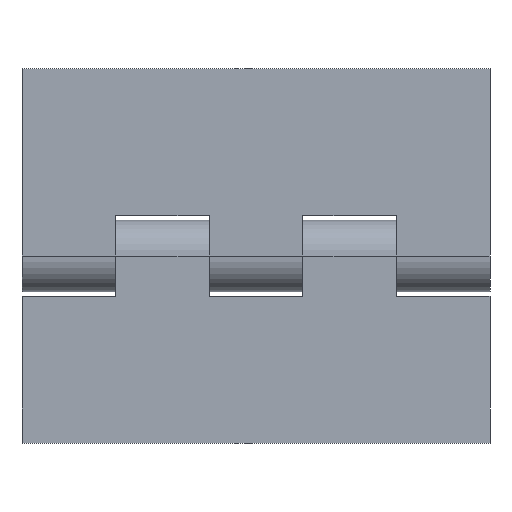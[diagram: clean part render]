
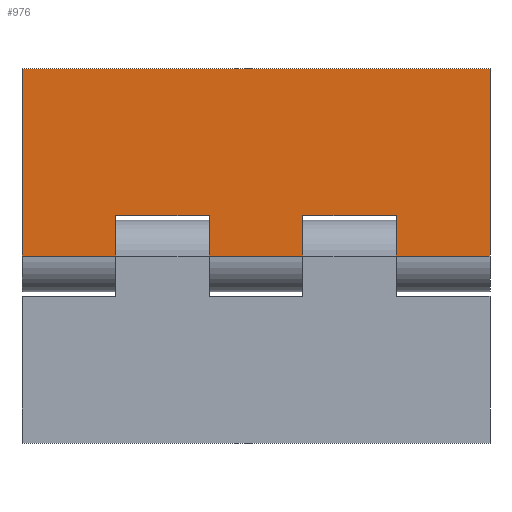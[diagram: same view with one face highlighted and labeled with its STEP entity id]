
A CAD part, front view. The second image highlights one B-rep face of the part: STEP entity #976.
In plain terms, the highlighted planar face has unit normal (0, -1, 0).
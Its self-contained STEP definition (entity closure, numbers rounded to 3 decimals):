
#4 = LINE ( 'NONE', #1675, #249 ) ;
#12 = VECTOR ( 'NONE', #1564, 1000. ) ;
#15 = EDGE_CURVE ( 'NONE', #1232, #619, #588, .T. ) ;
#63 = CARTESIAN_POINT ( 'NONE',  ( 4., 0., -3.45 ) ) ;
#86 = CARTESIAN_POINT ( 'NONE',  ( 12., 0., 0. ) ) ;
#92 = ORIENTED_EDGE ( 'NONE', *, *, #388, .T. ) ;
#131 = PLANE ( 'NONE',  #305 ) ;
#191 = CARTESIAN_POINT ( 'NONE',  ( 20., 0., -16. ) ) ;
#240 = ORIENTED_EDGE ( 'NONE', *, *, #1574, .T. ) ;
#249 = VECTOR ( 'NONE', #743, 1000. ) ;
#293 = ORIENTED_EDGE ( 'NONE', *, *, #1861, .T. ) ;
#305 = AXIS2_PLACEMENT_3D ( 'NONE', #1836, #1476, #1620 ) ;
#311 = LINE ( 'NONE', #2341, #2306 ) ;
#322 = CARTESIAN_POINT ( 'NONE',  ( 4., 0., -3.45 ) ) ;
#336 = VERTEX_POINT ( 'NONE', #1726 ) ;
#364 = VECTOR ( 'NONE', #2007, 1000. ) ;
#388 = EDGE_CURVE ( 'NONE', #1000, #1559, #2235, .T. ) ;
#400 = ORIENTED_EDGE ( 'NONE', *, *, #1403, .T. ) ;
#437 = LINE ( 'NONE', #1914, #1944 ) ;
#451 = VECTOR ( 'NONE', #2264, 1000. ) ;
#467 = VERTEX_POINT ( 'NONE', #2247 ) ;
#485 = VECTOR ( 'NONE', #1466, 1000. ) ;
#498 = FACE_OUTER_BOUND ( 'NONE', #1915, .T. ) ;
#542 = EDGE_CURVE ( 'NONE', #1952, #944, #437, .T. ) ;
#560 = CARTESIAN_POINT ( 'NONE',  ( -4., 0., 0. ) ) ;
#588 = LINE ( 'NONE', #2265, #933 ) ;
#615 = CARTESIAN_POINT ( 'NONE',  ( -20., 0., 0. ) ) ;
#619 = VERTEX_POINT ( 'NONE', #1101 ) ;
#732 = ORIENTED_EDGE ( 'NONE', *, *, #1463, .T. ) ;
#743 = DIRECTION ( 'NONE',  ( -1., 0., 0. ) ) ;
#900 = DIRECTION ( 'NONE',  ( 0., 0., 1. ) ) ;
#933 = VECTOR ( 'NONE', #1730, 1000. ) ;
#940 = DIRECTION ( 'NONE',  ( -1., 0., 0. ) ) ;
#944 = VERTEX_POINT ( 'NONE', #1001 ) ;
#958 = LINE ( 'NONE', #1162, #1923 ) ;
#976 = ADVANCED_FACE ( 'NONE', ( #498 ), #131, .F. ) ;
#977 = VECTOR ( 'NONE', #940, 1000. ) ;
#996 = LINE ( 'NONE', #1945, #451 ) ;
#1000 = VERTEX_POINT ( 'NONE', #1453 ) ;
#1001 = CARTESIAN_POINT ( 'NONE',  ( 12., 0., -3.45 ) ) ;
#1017 = DIRECTION ( 'NONE',  ( 0., 0., -1. ) ) ;
#1072 = CARTESIAN_POINT ( 'NONE',  ( -12., 0., -3.45 ) ) ;
#1080 = VERTEX_POINT ( 'NONE', #2021 ) ;
#1101 = CARTESIAN_POINT ( 'NONE',  ( -4., 0., -3.45 ) ) ;
#1162 = CARTESIAN_POINT ( 'NONE',  ( 20., 0., 0. ) ) ;
#1191 = EDGE_CURVE ( 'NONE', #336, #1080, #1883, .T. ) ;
#1232 = VERTEX_POINT ( 'NONE', #560 ) ;
#1306 = CARTESIAN_POINT ( 'NONE',  ( 20., 0., 0. ) ) ;
#1355 = DIRECTION ( 'NONE',  ( -1., 0., 0. ) ) ;
#1394 = ORIENTED_EDGE ( 'NONE', *, *, #1191, .F. ) ;
#1399 = CARTESIAN_POINT ( 'NONE',  ( -12., 0., 3.05 ) ) ;
#1403 = EDGE_CURVE ( 'NONE', #1559, #1080, #1413, .T. ) ;
#1413 = LINE ( 'NONE', #615, #12 ) ;
#1453 = CARTESIAN_POINT ( 'NONE',  ( -12., 0., 0. ) ) ;
#1463 = EDGE_CURVE ( 'NONE', #1797, #467, #311, .T. ) ;
#1466 = DIRECTION ( 'NONE',  ( 0., 0., -1. ) ) ;
#1476 = DIRECTION ( 'NONE',  ( 0., 1., 0. ) ) ;
#1559 = VERTEX_POINT ( 'NONE', #2354 ) ;
#1564 = DIRECTION ( 'NONE',  ( 0., 0., -1. ) ) ;
#1574 = EDGE_CURVE ( 'NONE', #944, #1797, #1617, .T. ) ;
#1617 = LINE ( 'NONE', #322, #364 ) ;
#1620 = DIRECTION ( 'NONE',  ( 0., 0., 1. ) ) ;
#1621 = ORIENTED_EDGE ( 'NONE', *, *, #2241, .T. ) ;
#1625 = EDGE_CURVE ( 'NONE', #619, #2100, #4, .T. ) ;
#1675 = CARTESIAN_POINT ( 'NONE',  ( -12., 0., -3.45 ) ) ;
#1726 = CARTESIAN_POINT ( 'NONE',  ( 20., 0., -16. ) ) ;
#1730 = DIRECTION ( 'NONE',  ( 0., 0., -1. ) ) ;
#1746 = ORIENTED_EDGE ( 'NONE', *, *, #1922, .T. ) ;
#1790 = CARTESIAN_POINT ( 'NONE',  ( 20., 0., 0. ) ) ;
#1797 = VERTEX_POINT ( 'NONE', #63 ) ;
#1836 = CARTESIAN_POINT ( 'NONE',  ( 20., 0., 0. ) ) ;
#1861 = EDGE_CURVE ( 'NONE', #2100, #1000, #2299, .T. ) ;
#1864 = VECTOR ( 'NONE', #1355, 1000. ) ;
#1877 = VECTOR ( 'NONE', #2104, 1000. ) ;
#1883 = LINE ( 'NONE', #191, #977 ) ;
#1914 = CARTESIAN_POINT ( 'NONE',  ( 12., 0., 3.05 ) ) ;
#1915 = EDGE_LOOP ( 'NONE', ( #732, #1621, #1973, #2268, #293, #92, #400, #1394, #2239, #1746, #2187, #240 ) ) ;
#1922 = EDGE_CURVE ( 'NONE', #2261, #1952, #996, .T. ) ;
#1923 = VECTOR ( 'NONE', #2058, 1000. ) ;
#1944 = VECTOR ( 'NONE', #1017, 1000. ) ;
#1945 = CARTESIAN_POINT ( 'NONE',  ( 20., 0., 0. ) ) ;
#1952 = VERTEX_POINT ( 'NONE', #86 ) ;
#1973 = ORIENTED_EDGE ( 'NONE', *, *, #15, .T. ) ;
#1981 = EDGE_CURVE ( 'NONE', #2261, #336, #2005, .T. ) ;
#2005 = LINE ( 'NONE', #1790, #485 ) ;
#2007 = DIRECTION ( 'NONE',  ( -1., 0., 0. ) ) ;
#2021 = CARTESIAN_POINT ( 'NONE',  ( -20., 0., -16. ) ) ;
#2058 = DIRECTION ( 'NONE',  ( -1., 0., 0. ) ) ;
#2100 = VERTEX_POINT ( 'NONE', #1072 ) ;
#2104 = DIRECTION ( 'NONE',  ( 0., 0., 1. ) ) ;
#2187 = ORIENTED_EDGE ( 'NONE', *, *, #542, .T. ) ;
#2235 = LINE ( 'NONE', #1306, #1864 ) ;
#2239 = ORIENTED_EDGE ( 'NONE', *, *, #1981, .F. ) ;
#2241 = EDGE_CURVE ( 'NONE', #467, #1232, #958, .T. ) ;
#2247 = CARTESIAN_POINT ( 'NONE',  ( 4., 0., 0. ) ) ;
#2261 = VERTEX_POINT ( 'NONE', #2284 ) ;
#2264 = DIRECTION ( 'NONE',  ( -1., 0., 0. ) ) ;
#2265 = CARTESIAN_POINT ( 'NONE',  ( -4., 0., 3.05 ) ) ;
#2268 = ORIENTED_EDGE ( 'NONE', *, *, #1625, .T. ) ;
#2284 = CARTESIAN_POINT ( 'NONE',  ( 20., 0., 0. ) ) ;
#2299 = LINE ( 'NONE', #1399, #1877 ) ;
#2306 = VECTOR ( 'NONE', #900, 1000. ) ;
#2341 = CARTESIAN_POINT ( 'NONE',  ( 4., 0., 3.05 ) ) ;
#2354 = CARTESIAN_POINT ( 'NONE',  ( -20., 0., 0. ) ) ;
